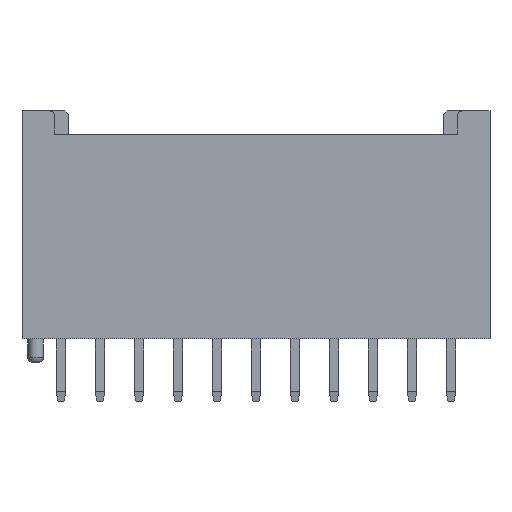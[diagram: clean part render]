
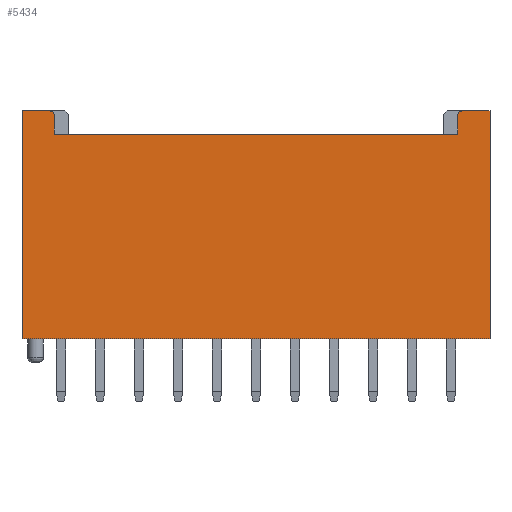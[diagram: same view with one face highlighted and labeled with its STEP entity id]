
A CAD part, front view. The second image highlights one B-rep face of the part: STEP entity #5434.
In plain terms, the highlighted planar face has unit normal (0, -1, 0).
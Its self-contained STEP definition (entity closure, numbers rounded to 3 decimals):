
#91=CARTESIAN_POINT('Vertex',(12.,0.,0.)) ;
#94=CARTESIAN_POINT('Line Origine',(0.,0.,0.)) ;
#98=CARTESIAN_POINT('Vertex',(-12.,0.,0.)) ;
#3175=CARTESIAN_POINT('Line Origine',(12.,0.,5.85)) ;
#3179=CARTESIAN_POINT('Vertex',(12.,0.,11.7)) ;
#3308=CARTESIAN_POINT('Vertex',(-12.,0.,11.7)) ;
#3311=CARTESIAN_POINT('Line Origine',(-12.,0.,5.85)) ;
#4241=CARTESIAN_POINT('Vertex',(-10.35,0.,10.5)) ;
#4244=CARTESIAN_POINT('Line Origine',(0.,0.,10.5)) ;
#4248=CARTESIAN_POINT('Vertex',(10.35,0.,10.5)) ;
#5324=CARTESIAN_POINT('Line Origine',(10.35,0.,10.975)) ;
#5328=CARTESIAN_POINT('Vertex',(10.35,0.,11.45)) ;
#5348=CARTESIAN_POINT('Axis2P3D Location',(10.6,0.,11.45)) ;
#5352=CARTESIAN_POINT('Vertex',(10.6,0.,11.7)) ;
#5374=CARTESIAN_POINT('Line Origine',(-10.35,0.,10.975)) ;
#5378=CARTESIAN_POINT('Vertex',(-10.35,0.,11.45)) ;
#5400=CARTESIAN_POINT('Axis2P3D Location',(0.,0.,11.7)) ;
#5405=CARTESIAN_POINT('Line Origine',(-11.3,0.,11.7)) ;
#5409=CARTESIAN_POINT('Vertex',(-10.6,0.,11.7)) ;
#5412=CARTESIAN_POINT('Line Origine',(11.3,0.,11.7)) ;
#5417=CARTESIAN_POINT('Axis2P3D Location',(-10.6,0.,11.45)) ;
#95=DIRECTION('Vector Direction',(1.,0.,0.)) ;
#3176=DIRECTION('Vector Direction',(0.,0.,-1.)) ;
#3312=DIRECTION('Vector Direction',(0.,0.,-1.)) ;
#4245=DIRECTION('Vector Direction',(-1.,0.,0.)) ;
#5325=DIRECTION('Vector Direction',(0.,0.,-1.)) ;
#5349=DIRECTION('Axis2P3D Direction',(0.,1.,0.)) ;
#5375=DIRECTION('Vector Direction',(0.,0.,-1.)) ;
#5401=DIRECTION('Axis2P3D Direction',(0.,-1.,0.)) ;
#5402=DIRECTION('Axis2P3D XDirection',(0.,0.,-1.)) ;
#5406=DIRECTION('Vector Direction',(1.,0.,0.)) ;
#5413=DIRECTION('Vector Direction',(1.,0.,0.)) ;
#5418=DIRECTION('Axis2P3D Direction',(0.,-1.,0.)) ;
#5350=AXIS2_PLACEMENT_3D('Circle Axis2P3D',#5348,#5349,$) ;
#5403=AXIS2_PLACEMENT_3D('Plane Axis2P3D',#5400,#5401,#5402) ;
#5419=AXIS2_PLACEMENT_3D('Circle Axis2P3D',#5417,#5418,$) ;
#5423=ORIENTED_EDGE('',*,*,#5411,.F.) ;
#5424=ORIENTED_EDGE('',*,*,#3315,.T.) ;
#5425=ORIENTED_EDGE('',*,*,#100,.T.) ;
#5426=ORIENTED_EDGE('',*,*,#3181,.F.) ;
#5427=ORIENTED_EDGE('',*,*,#5416,.F.) ;
#5428=ORIENTED_EDGE('',*,*,#5354,.F.) ;
#5429=ORIENTED_EDGE('',*,*,#5330,.T.) ;
#5430=ORIENTED_EDGE('',*,*,#4250,.T.) ;
#5431=ORIENTED_EDGE('',*,*,#5380,.F.) ;
#5432=ORIENTED_EDGE('',*,*,#5421,.F.) ;
#96=VECTOR('Line Direction',#95,1.) ;
#3177=VECTOR('Line Direction',#3176,1.) ;
#3313=VECTOR('Line Direction',#3312,1.) ;
#4246=VECTOR('Line Direction',#4245,1.) ;
#5326=VECTOR('Line Direction',#5325,1.) ;
#5376=VECTOR('Line Direction',#5375,1.) ;
#5407=VECTOR('Line Direction',#5406,1.) ;
#5414=VECTOR('Line Direction',#5413,1.) ;
#5434=ADVANCED_FACE('\X2\96F64EF651E04F554F53\X0\',(#5433),#5404,.T.) ;
#5351=CIRCLE('generated circle',#5350,0.25) ;
#5420=CIRCLE('generated circle',#5419,0.25) ;
#100=EDGE_CURVE('',#99,#92,#97,.T.) ;
#3181=EDGE_CURVE('',#3180,#92,#3178,.T.) ;
#3315=EDGE_CURVE('',#3309,#99,#3314,.T.) ;
#4250=EDGE_CURVE('',#4249,#4242,#4247,.T.) ;
#5330=EDGE_CURVE('',#5329,#4249,#5327,.T.) ;
#5354=EDGE_CURVE('',#5329,#5353,#5351,.T.) ;
#5380=EDGE_CURVE('',#5379,#4242,#5377,.T.) ;
#5411=EDGE_CURVE('',#3309,#5410,#5408,.T.) ;
#5416=EDGE_CURVE('',#5353,#3180,#5415,.T.) ;
#5421=EDGE_CURVE('',#5410,#5379,#5420,.F.) ;
#5422=EDGE_LOOP('',(#5423,#5424,#5425,#5426,#5427,#5428,#5429,#5430,#5431,#5432)) ;
#5433=FACE_OUTER_BOUND('',#5422,.T.) ;
#97=LINE('Line',#94,#96) ;
#3178=LINE('Line',#3175,#3177) ;
#3314=LINE('Line',#3311,#3313) ;
#4247=LINE('Line',#4244,#4246) ;
#5327=LINE('Line',#5324,#5326) ;
#5377=LINE('Line',#5374,#5376) ;
#5408=LINE('Line',#5405,#5407) ;
#5415=LINE('Line',#5412,#5414) ;
#5404=PLANE('Plane',#5403) ;
#92=VERTEX_POINT('',#91) ;
#99=VERTEX_POINT('',#98) ;
#3180=VERTEX_POINT('',#3179) ;
#3309=VERTEX_POINT('',#3308) ;
#4242=VERTEX_POINT('',#4241) ;
#4249=VERTEX_POINT('',#4248) ;
#5329=VERTEX_POINT('',#5328) ;
#5353=VERTEX_POINT('',#5352) ;
#5379=VERTEX_POINT('',#5378) ;
#5410=VERTEX_POINT('',#5409) ;
